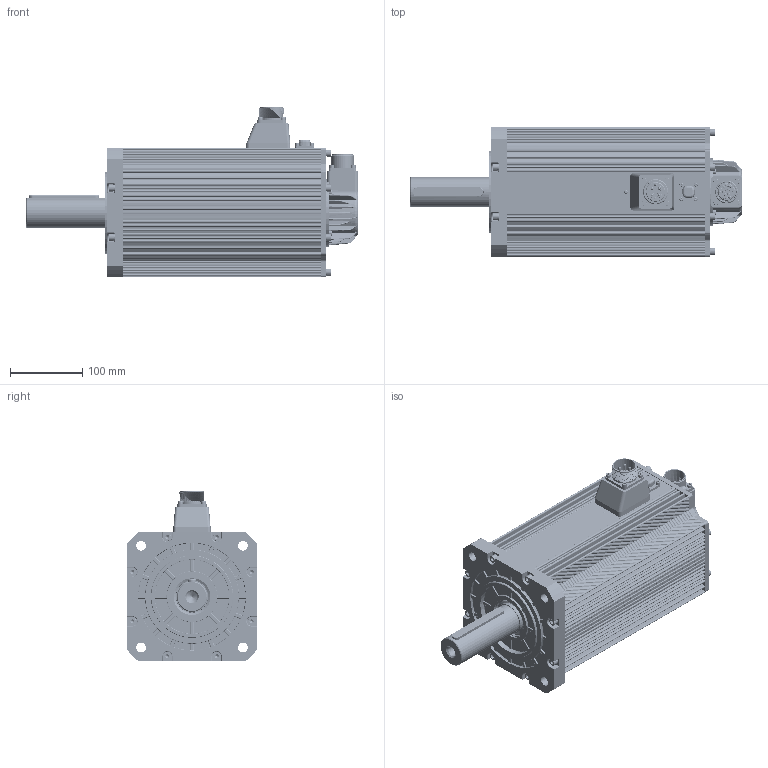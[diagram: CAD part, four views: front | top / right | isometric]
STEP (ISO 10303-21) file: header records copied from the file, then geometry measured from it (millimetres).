
FILE_DESCRIPTION((''),'2;1');
FILE_NAME('IMS20A-18M30C15C-M44_ASM','2024-11-14T13:15:35',('0108628'),(''),'CREO PARAMETRIC BY PTC INC, 2019080','CREO PARAMETRIC BY PTC INC, 2019080','');
FILE_SCHEMA(('CONFIG_CONTROL_DESIGN'));
Products named in the file (39): 83040199_AF0; 6206_AF0; 80100282_AF0; JB6695-161_AF0; ZHUAN180-3KW_AF0_ASM; 80040359_AF1; 5X8L; DZ-180-274L_AF0_ASM; GB93-6; GBT7R1-6X25; QIANDUANGAI_180_AF0; JB6695-161_AF1; YOUFENG; QDG_AF0_ASM; 87800001_AF0; M4X12-_AF00; M4X12-_AF10; M4X12-_AF20; M4X12-_AF30; JIAN; DIN912-M4X6-8_8_AF0; DINENISO7092-4_AF0; DIN912-M4X6-8_8_AF1; DINENISO7092-4_AF1; 86870277_AF0; DIN912-M4X7-8_8; DINENISO7092-4; YD32-180-TY; YD32-MD; YD32-MDS; DONGLI-HC-5015; YD32-4_ASM; XINHAO-HC-5015; BAOZHA-MFD; BAOZHA-MFG; DIN912-M4X40-8_8; DIN912-M4X12-8_8; M3X8; IMS20A-18M30C15C-M44_ASM
Assembly tree (78 placements, depth 3):
  IMS20A-18M30C15C-M44_ASM
    ZHUAN180-3KW_AF0_ASM
      83040199_AF0
      6206_AF0
      80100282_AF0
      JB6695-161_AF0
    DZ-180-274L_AF0_ASM
      80040359_AF1
      5X8L
    GB93-6  x9
    GBT7R1-6X25  x8
    QDG_AF0_ASM
      QIANDUANGAI_180_AF0
      JB6695-161_AF1
      GB93-6  x8
      GBT7R1-6X25  x8
      YOUFENG
    87800001_AF0
    M4X12-_AF00
    M4X12-_AF10
    M4X12-_AF20
    M4X12-_AF30
    JIAN
    DIN912-M4X6-8_8_AF0
    DINENISO7092-4_AF0
    DIN912-M4X6-8_8_AF1
    DINENISO7092-4_AF1
    86870277_AF0
    DIN912-M4X7-8_8
    DINENISO7092-4
    YD32-4_ASM
      YD32-180-TY
      YD32-MD
      YD32-MDS
      DONGLI-HC-5015
    XINHAO-HC-5015
    BAOZHA-MFD
    BAOZHA-MFG
    DIN912-M4X40-8_8  x4
    DIN912-M4X12-8_8  x4
    M3X8  x4
Bounding box: 461 x 180 x 237.4 mm (x, y, z)
Volume: 2309326.5 mm3; surface area: 935238.3 mm2
Topology: 73 solids, 139 shells, 7181 faces, 18568 edges, 11783 vertices
Faces by surface type: plane 2532, cylinder 2351, extrusion 732, bspline 520, cone 502, torus 400, sphere 144
Entity records: 268673 total; most frequent: CARTESIAN_POINT 116413, ORIENTED_EDGE 32892, DIRECTION 29401, EDGE_CURVE 16528, VERTEX_POINT 10625, AXIS2_PLACEMENT_3D 10246, VECTOR 8909, LINE 8177
